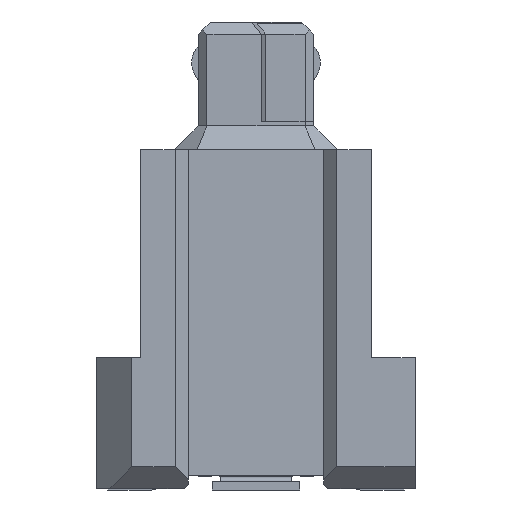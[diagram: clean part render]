
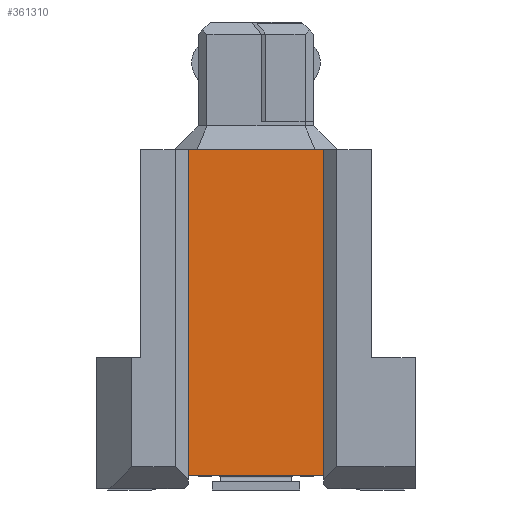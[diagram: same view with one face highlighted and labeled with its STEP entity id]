
A CAD part, left-side view. The second image highlights one B-rep face of the part: STEP entity #361310.
In plain terms, the highlighted planar face has unit normal (-1, 0, 0).
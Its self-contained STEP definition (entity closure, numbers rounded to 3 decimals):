
#341990=CARTESIAN_POINT('',(4.968,2.41,4.2));
#342000=VERTEX_POINT('',#341990);
#342250=CARTESIAN_POINT('',(4.968,-5.06,4.2));
#342260=VERTEX_POINT('',#342250);
#342290=CARTESIAN_POINT('',(4.968,0.,4.2));
#342300=DIRECTION('',(0.,-1.,0.));
#342310=VECTOR('',#342300,1.);
#342320=LINE('',#342290,#342310);
#342330=EDGE_CURVE('',#342000,#342260,#342320,.T.);
#345460=CARTESIAN_POINT('',(4.968,-5.06,1.1));
#345470=VERTEX_POINT('',#345460);
#345630=CARTESIAN_POINT('',(4.968,2.41,1.1));
#345640=VERTEX_POINT('',#345630);
#345670=CARTESIAN_POINT('',(4.968,-2.36,1.1));
#345680=DIRECTION('',(0.,1.,0.));
#345690=VECTOR('',#345680,1.);
#345700=LINE('',#345670,#345690);
#345710=EDGE_CURVE('',#345470,#345640,#345700,.T.);
#345820=CARTESIAN_POINT('',(4.968,-5.06,0.));
#345830=DIRECTION('',(0.,0.,-1.));
#345840=VECTOR('',#345830,1.);
#345850=LINE('',#345820,#345840);
#345860=EDGE_CURVE('',#342260,#345470,#345850,.T.);
#361150=CARTESIAN_POINT('',(4.968,-3.36,5.3));
#361160=DIRECTION('',(-1.,0.,0.));
#361170=DIRECTION('',(0.,1.,0.));
#361180=AXIS2_PLACEMENT_3D('',#361150,#361160,#361170);
#361190=PLANE('',#361180);
#361200=ORIENTED_EDGE('',*,*,#345860,.F.);
#361210=ORIENTED_EDGE('',*,*,#345710,.F.);
#361220=CARTESIAN_POINT('',(4.968,2.41,0.));
#361230=DIRECTION('',(0.,0.,-1.));
#361240=VECTOR('',#361230,1.);
#361250=LINE('',#361220,#361240);
#361260=EDGE_CURVE('',#342000,#345640,#361250,.T.);
#361270=ORIENTED_EDGE('',*,*,#361260,.T.);
#361280=ORIENTED_EDGE('',*,*,#342330,.F.);
#361290=EDGE_LOOP('',(#361280,#361270,#361210,#361200));
#361300=FACE_OUTER_BOUND('',#361290,.T.);
#361310=ADVANCED_FACE('',(#361300),#361190,.T.);
